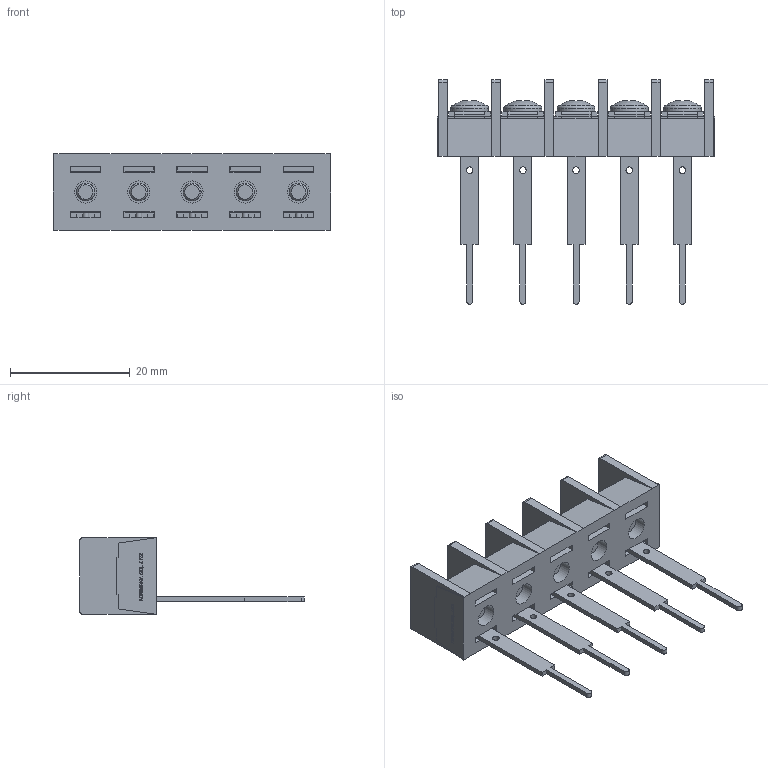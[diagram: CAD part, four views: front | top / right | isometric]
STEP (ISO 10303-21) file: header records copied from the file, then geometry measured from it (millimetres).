
FILE_DESCRIPTION(/* description */ ('Alibre Inc.'),/* implementation_level */ '2;1');
FILE_NAME(/* name */ 'export0',/* time_stamp */ '2015-10-20T20:05:30+09:00',/* author */ (''),/* organization */ (''),/* preprocessor_version */ 'ST-DEVELOPER v14',/* originating_system */ 'Alibre',/* authorisation */ '');
FILE_SCHEMA (('CONFIG_CONTROL_DESIGN'));
Length unit declared in the file: centimetre
Products named in the file (1): ID_1
Bounding box: 46.36 x 37.5 x 12.8 mm (x, y, z)
Volume: 4575.6 mm3; surface area: 6211.2 mm2
Topology: 1 solids, 81 shells, 1820 faces, 4715 edges, 3122 vertices
Faces by surface type: plane 1359, bspline 364, cylinder 57, cone 25, torus 10, sphere 5
Full cylindrical faces by diameter (mm): 1.1 x5, 3 x5, 3.7 x5, 4.6 x5, 6.3 x5
Entity records: 53121 total; most frequent: CARTESIAN_POINT 13022, ORIENTED_EDGE 9320, DIRECTION 5499, EDGE_CURVE 4660, VECTOR 3591, LINE 3591, VERTEX_POINT 3107, EDGE_LOOP 2005
